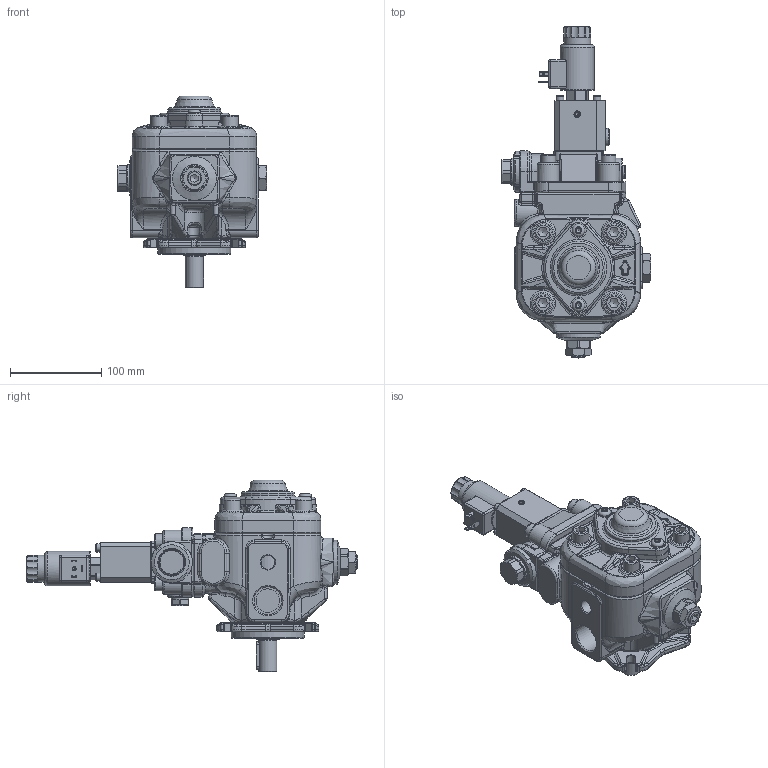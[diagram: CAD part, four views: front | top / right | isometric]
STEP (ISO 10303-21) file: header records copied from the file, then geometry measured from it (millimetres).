
FILE_DESCRIPTION(/* description */ (''),/* implementation_level */ '2;1');
FILE_NAME(/* name */ 'W:\Tecnico\Archivio\Berarma\Dimensioni Pompe\3D Export\Montaggio 3D semplificato\PLP-PHP 05\PHP05 FHRMA PCS005.stp',/* time_stamp */ '2018-10-10T15:10:48+02:00',/* author */ ('marcop'),/* organization */ (''),/* preprocessor_version */ 'ST-DEVELOPER v17',/* originating_system */ 'Autodesk Inventor 2018',/* authorisation */ '');
FILE_SCHEMA (('AUTOMOTIVE_DESIGN { 1 0 10303 214 3 1 1 }'));
Length unit declared in the file: millimetre
Products named in the file (1): PHP05_Shrinkwrap_1
Bounding box: 163.3 x 363.15 x 210 mm (x, y, z)
Volume: 2304378.9 mm3; surface area: 257628.2 mm2
Topology: 2 solids, 2 shells, 2281 faces, 5799 edges, 3555 vertices
Faces by surface type: plane 813, cylinder 463, bspline 444, torus 287, cone 234, sphere 40
Full cylindrical faces by diameter (mm): 1.6 x3, 1.7 x4, 2.5 x2, 3.242 x1, 4.3 x1, 6 x1, 6.5 x1, 8.5 x8, 9 x4, 12 x2, 13 x1, 14 x3, 14.5 x1, 14.95 x1, 15 x1, 15.5 x1, 16 x5, 16.376 x1, 16.5 x4, 16.789 x1, 17 x3, 17.805 x1, 17.84 x1, 18 x5, 18.999 x2, 19 x3, 19.2 x1, 19.5 x2, 20 x3, 22 x1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
Entity records: 85023 total; most frequent: CARTESIAN_POINT 30561, ORIENTED_EDGE 11426, DIRECTION 10408, EDGE_CURVE 5713, AXIS2_PLACEMENT_3D 4154, VERTEX_POINT 3555, EDGE_LOOP 2410, STYLED_ITEM 2283
